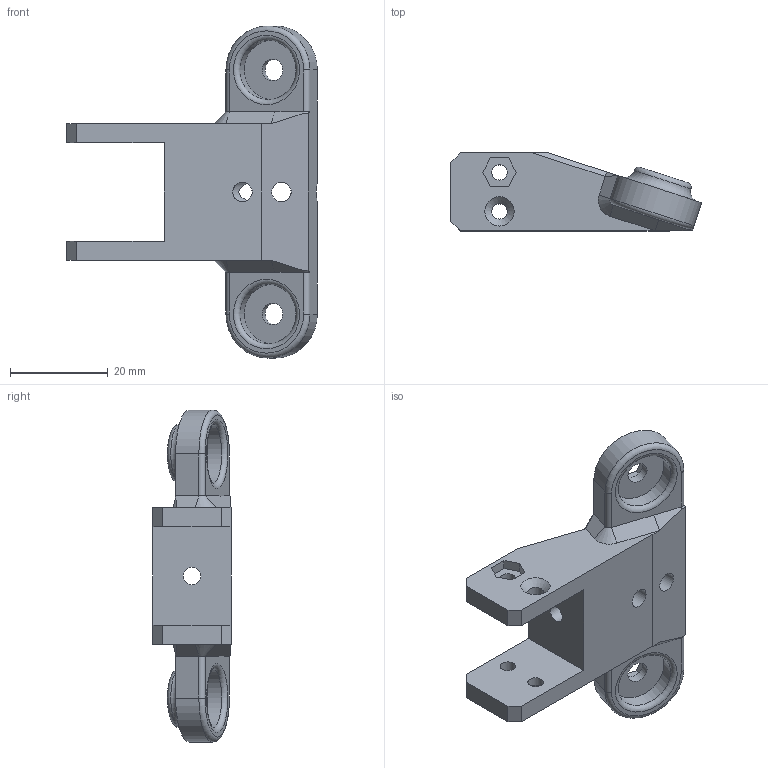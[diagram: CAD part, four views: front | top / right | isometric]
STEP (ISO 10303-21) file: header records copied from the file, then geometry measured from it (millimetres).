
FILE_DESCRIPTION(/* description */ (''),/* implementation_level */ '2;1');
FILE_NAME(/* name */ 'D:\3D печать\Мои проекты\Archy MK 2\STEP\наконечник плеча V2.stp',/* time_stamp */ '2019-03-20T22:03:21+06:00',/* author */ ('Пользователь'),/* organization */ (''),/* preprocessor_version */ 'ST-DEVELOPER v16.5',/* originating_system */ 'Autodesk Inventor 2017',/* authorisation */ '');
FILE_SCHEMA (('AUTOMOTIVE_DESIGN { 1 0 10303 214 3 1 1 }'));
Length unit declared in the file: millimetre
Products named in the file (1): наконечник \X2\043F
043B043504470430\X0\ V2
Bounding box: 51.34 x 16 x 68 mm (x, y, z)
Volume: 14423.8 mm3; surface area: 7233.6 mm2
Topology: 1 solids, 1 shells, 97 faces, 242 edges, 154 vertices
Faces by surface type: plane 64, cylinder 18, torus 8, cone 7
Full cylindrical faces by diameter (mm): 3.15 x4, 3.5 x1, 4 x2, 4.4 x2, 6 x1, 12.2 x2
Entity records: 2818 total; most frequent: CARTESIAN_POINT 538, DIRECTION 455, ORIENTED_EDGE 432, EDGE_CURVE 216, LINE 161, VECTOR 161, VERTEX_POINT 149, AXIS2_PLACEMENT_3D 147
